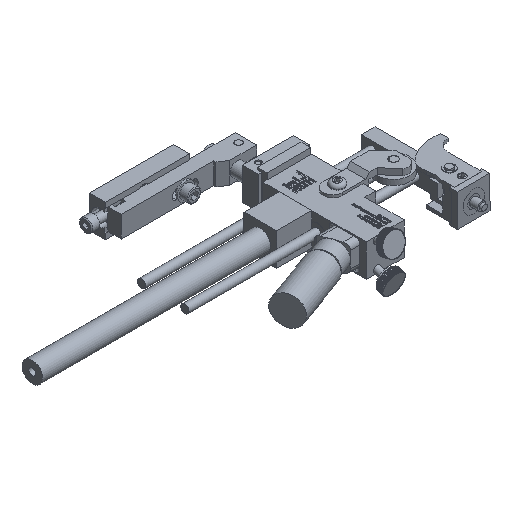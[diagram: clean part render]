
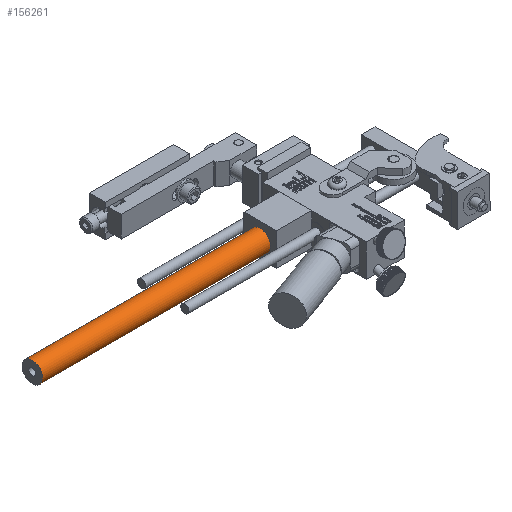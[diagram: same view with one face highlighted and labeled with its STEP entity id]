
A CAD part, isometric view. The second image highlights one B-rep face of the part: STEP entity #156261.
In plain terms, the highlighted cylindrical face has radius 5.969 mm (diameter 11.938 mm), a full revolution.
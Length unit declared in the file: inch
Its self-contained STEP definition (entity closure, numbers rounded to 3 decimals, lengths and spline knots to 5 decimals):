
#155960=CARTESIAN_POINT('',(-1.4985,0.8125,0.61));
#155961=VERTEX_POINT('',#155960);
#155962=CARTESIAN_POINT('',(-1.4985,0.8125,0.375));
#155963=DIRECTION('',(1.0,0.0,0.0));
#155964=DIRECTION('',(0.0,0.0,-1.0));
#155965=AXIS2_PLACEMENT_3D('',#155962,#155963,#155964);
#155966=CIRCLE('',#155965,0.235);
#155967=EDGE_CURVE('',#155961,#155961,#155966,.T.);
#156227=CARTESIAN_POINT('',(-6.7485,0.8125,0.61));
#156228=VERTEX_POINT('',#156227);
#156229=CARTESIAN_POINT('',(-6.7485,0.8125,0.375));
#156230=DIRECTION('',(1.0,0.0,0.0));
#156231=DIRECTION('',(0.0,0.0,-1.0));
#156232=AXIS2_PLACEMENT_3D('',#156229,#156230,#156231);
#156233=CIRCLE('',#156232,0.235);
#156234=EDGE_CURVE('',#156228,#156228,#156233,.T.);
#156250=CARTESIAN_POINT('',(-1.4985,0.8125,0.375));
#156251=DIRECTION('',(-1.0,0.,0.));
#156252=DIRECTION('',(0.0,0.0,-1.0));
#156253=AXIS2_PLACEMENT_3D('',#156250,#156251,#156252);
#156254=CYLINDRICAL_SURFACE('',#156253,0.235);
#156255=ORIENTED_EDGE('',*,*,#156234,.T.);
#156256=EDGE_LOOP('',(#156255));
#156257=FACE_OUTER_BOUND('',#156256,.T.);
#156258=ORIENTED_EDGE('',*,*,#155967,.F.);
#156259=EDGE_LOOP('',(#156258));
#156260=FACE_BOUND('',#156259,.T.);
#156261=ADVANCED_FACE('',(#156257,#156260),#156254,.T.);
